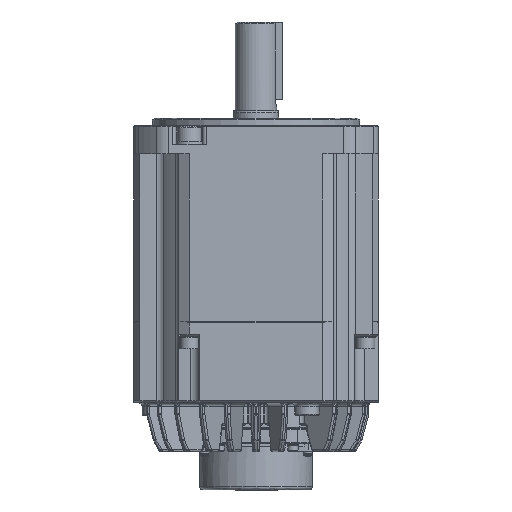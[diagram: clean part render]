
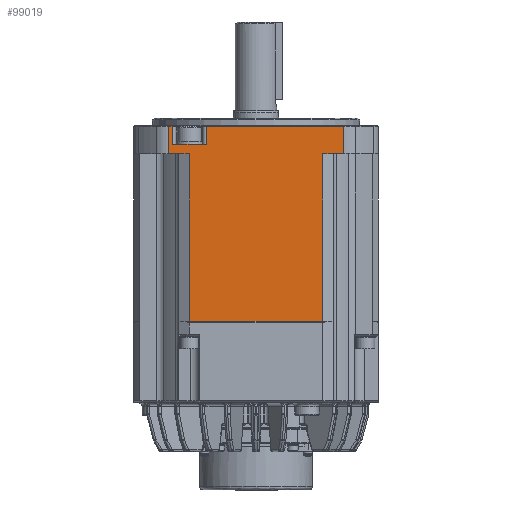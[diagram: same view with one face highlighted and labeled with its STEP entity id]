
A CAD part, front view. The second image highlights one B-rep face of the part: STEP entity #99019.
In plain terms, the highlighted planar face has unit normal (0, -1, 0).
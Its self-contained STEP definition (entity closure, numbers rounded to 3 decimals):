
#184 = VERTEX_POINT ( 'NONE', #106436 ) ;
#634 = VECTOR ( 'NONE', #153458, 1000. ) ;
#2374 = DIRECTION ( 'NONE',  ( 0., 0., -1. ) ) ;
#3789 = DIRECTION ( 'NONE',  ( 0., 0., -1. ) ) ;
#3954 = LINE ( 'NONE', #53146, #32720 ) ;
#5337 = DIRECTION ( 'NONE',  ( -1., 0., 0. ) ) ;
#5871 = ORIENTED_EDGE ( 'NONE', *, *, #35404, .F. ) ;
#9197 = DIRECTION ( 'NONE',  ( 0., 0., 1. ) ) ;
#9619 = CARTESIAN_POINT ( 'NONE',  ( 234.202, -20.122, -19. ) ) ;
#14220 = CARTESIAN_POINT ( 'NONE',  ( 223.238, -20.122, -4.5 ) ) ;
#14928 = ORIENTED_EDGE ( 'NONE', *, *, #103969, .F. ) ;
#15191 = EDGE_CURVE ( 'NONE', #123187, #42983, #99270, .T. ) ;
#19088 = DIRECTION ( 'NONE',  ( 0., 0., 1. ) ) ;
#20633 = VECTOR ( 'NONE', #156738, 1000. ) ;
#21558 = DIRECTION ( 'NONE',  ( 0., 0., 1. ) ) ;
#23021 = LINE ( 'NONE', #70571, #117119 ) ;
#24417 = LINE ( 'NONE', #9619, #20633 ) ;
#27836 = EDGE_CURVE ( 'NONE', #77397, #98460, #94197, .T. ) ;
#30145 = VECTOR ( 'NONE', #136356, 1000. ) ;
#31357 = DIRECTION ( 'NONE',  ( 1., 0., 0. ) ) ;
#32720 = VECTOR ( 'NONE', #3789, 1000. ) ;
#33023 = ORIENTED_EDGE ( 'NONE', *, *, #51757, .F. ) ;
#35404 = EDGE_CURVE ( 'NONE', #104214, #127388, #62631, .T. ) ;
#35723 = AXIS2_PLACEMENT_3D ( 'NONE', #48491, #134383, #60869 ) ;
#36159 = PLANE ( 'NONE',  #35723 ) ;
#36204 = ORIENTED_EDGE ( 'NONE', *, *, #49440, .F. ) ;
#38167 = DIRECTION ( 'NONE',  ( 1., 0., 0. ) ) ;
#39026 = VERTEX_POINT ( 'NONE', #150705 ) ;
#39249 = CARTESIAN_POINT ( 'NONE',  ( 154.026, -20.122, -14. ) ) ;
#41057 = ORIENTED_EDGE ( 'NONE', *, *, #27836, .F. ) ;
#41845 = CARTESIAN_POINT ( 'NONE',  ( 234.202, -20.122, -4.3 ) ) ;
#42129 = VERTEX_POINT ( 'NONE', #129752 ) ;
#42983 = VERTEX_POINT ( 'NONE', #85778 ) ;
#46029 = CARTESIAN_POINT ( 'NONE',  ( 234.202, -20.122, -108. ) ) ;
#48491 = CARTESIAN_POINT ( 'NONE',  ( 234.202, -20.122, -4.5 ) ) ;
#49440 = EDGE_CURVE ( 'NONE', #98460, #100871, #23021, .T. ) ;
#49507 = ORIENTED_EDGE ( 'NONE', *, *, #137371, .F. ) ;
#51757 = EDGE_CURVE ( 'NONE', #128962, #42129, #59444, .T. ) ;
#53146 = CARTESIAN_POINT ( 'NONE',  ( 143.237, -20.122, -4.5 ) ) ;
#55480 = EDGE_LOOP ( 'NONE', ( #5871, #49507, #14928, #137122, #100858, #88139, #70649, #33023, #94979, #113732, #36204, #41057, #99515, #109288, #120335 ) ) ;
#55911 = VECTOR ( 'NONE', #2374, 1000. ) ;
#56048 = LINE ( 'NONE', #156327, #117453 ) ;
#57406 = VECTOR ( 'NONE', #65043, 1000. ) ;
#58445 = EDGE_CURVE ( 'NONE', #184, #105363, #142298, .T. ) ;
#59406 = CARTESIAN_POINT ( 'NONE',  ( 234.202, -20.122, -14. ) ) ;
#59444 = LINE ( 'NONE', #68469, #157440 ) ;
#60083 = VECTOR ( 'NONE', #108216, 1000. ) ;
#60869 = DIRECTION ( 'NONE',  ( 0., 0., 1. ) ) ;
#61315 = VERTEX_POINT ( 'NONE', #39249 ) ;
#62631 = LINE ( 'NONE', #98170, #120188 ) ;
#62711 = VECTOR ( 'NONE', #5337, 1000. ) ;
#65043 = DIRECTION ( 'NONE',  ( 1., 0., 0. ) ) ;
#65483 = VECTOR ( 'NONE', #83072, 1000. ) ;
#67577 = CARTESIAN_POINT ( 'NONE',  ( 234.202, -20.122, -19. ) ) ;
#68469 = CARTESIAN_POINT ( 'NONE',  ( 234.202, -20.122, -4.3 ) ) ;
#69416 = CARTESIAN_POINT ( 'NONE',  ( 143.237, -20.122, -14. ) ) ;
#70571 = CARTESIAN_POINT ( 'NONE',  ( 152.237, -20.122, -4.5 ) ) ;
#70649 = ORIENTED_EDGE ( 'NONE', *, *, #90659, .F. ) ;
#76515 = FACE_OUTER_BOUND ( 'NONE', #55480, .T. ) ;
#77397 = VERTEX_POINT ( 'NONE', #155597 ) ;
#79366 = EDGE_CURVE ( 'NONE', #105363, #77397, #128037, .T. ) ;
#80378 = CARTESIAN_POINT ( 'NONE',  ( 161.237, -20.122, -14. ) ) ;
#82108 = EDGE_CURVE ( 'NONE', #61315, #113180, #110889, .T. ) ;
#82759 = CARTESIAN_POINT ( 'NONE',  ( 161.237, -20.122, -4.5 ) ) ;
#83072 = DIRECTION ( 'NONE',  ( -1., 0., 0. ) ) ;
#85778 = CARTESIAN_POINT ( 'NONE',  ( 150.449, -20.122, -14. ) ) ;
#85827 = DIRECTION ( 'NONE',  ( 0., 0., -1. ) ) ;
#86409 = CARTESIAN_POINT ( 'NONE',  ( 161.237, -20.122, -4.3 ) ) ;
#86971 = CARTESIAN_POINT ( 'NONE',  ( 234.202, -20.122, -14. ) ) ;
#88139 = ORIENTED_EDGE ( 'NONE', *, *, #15191, .F. ) ;
#90659 = EDGE_CURVE ( 'NONE', #42129, #123187, #3954, .T. ) ;
#94197 = LINE ( 'NONE', #46029, #65483 ) ;
#94749 = LINE ( 'NONE', #67577, #634 ) ;
#94979 = ORIENTED_EDGE ( 'NONE', *, *, #121835, .F. ) ;
#98170 = CARTESIAN_POINT ( 'NONE',  ( 234.202, -20.122, -4.5 ) ) ;
#98460 = VERTEX_POINT ( 'NONE', #141058 ) ;
#99019 = ADVANCED_FACE ( 'NONE', ( #76515 ), #36159, .F. ) ;
#99270 = LINE ( 'NONE', #86971, #30145 ) ;
#99515 = ORIENTED_EDGE ( 'NONE', *, *, #79366, .F. ) ;
#100858 = ORIENTED_EDGE ( 'NONE', *, *, #116402, .F. ) ;
#100871 = VERTEX_POINT ( 'NONE', #147343 ) ;
#101709 = VERTEX_POINT ( 'NONE', #86409 ) ;
#101738 = CARTESIAN_POINT ( 'NONE',  ( 223.238, -20.122, -108. ) ) ;
#103969 = EDGE_CURVE ( 'NONE', #113180, #101709, #141197, .T. ) ;
#104214 = VERTEX_POINT ( 'NONE', #41845 ) ;
#104698 = VECTOR ( 'NONE', #21558, 1000. ) ;
#105363 = VERTEX_POINT ( 'NONE', #101738 ) ;
#105539 = CARTESIAN_POINT ( 'NONE',  ( 141.272, -20.122, -4.3 ) ) ;
#106436 = CARTESIAN_POINT ( 'NONE',  ( 223.238, -20.122, -19. ) ) ;
#107088 = VECTOR ( 'NONE', #38167, 1000. ) ;
#108216 = DIRECTION ( 'NONE',  ( 1., 0., 0. ) ) ;
#109288 = ORIENTED_EDGE ( 'NONE', *, *, #58445, .F. ) ;
#110021 = EDGE_CURVE ( 'NONE', #100871, #39026, #24417, .T. ) ;
#110889 = LINE ( 'NONE', #111688, #107088 ) ;
#111688 = CARTESIAN_POINT ( 'NONE',  ( 234.202, -20.122, -14. ) ) ;
#113180 = VERTEX_POINT ( 'NONE', #80378 ) ;
#113732 = ORIENTED_EDGE ( 'NONE', *, *, #110021, .F. ) ;
#116402 = EDGE_CURVE ( 'NONE', #42983, #61315, #121475, .T. ) ;
#117119 = VECTOR ( 'NONE', #19088, 1000. ) ;
#117453 = VECTOR ( 'NONE', #9197, 1000. ) ;
#120188 = VECTOR ( 'NONE', #85827, 1000. ) ;
#120335 = ORIENTED_EDGE ( 'NONE', *, *, #153047, .F. ) ;
#121475 = LINE ( 'NONE', #59406, #60083 ) ;
#121835 = EDGE_CURVE ( 'NONE', #39026, #128962, #56048, .T. ) ;
#123187 = VERTEX_POINT ( 'NONE', #69416 ) ;
#126564 = LINE ( 'NONE', #150900, #57406 ) ;
#127388 = VERTEX_POINT ( 'NONE', #142546 ) ;
#128037 = LINE ( 'NONE', #128766, #62711 ) ;
#128766 = CARTESIAN_POINT ( 'NONE',  ( 234.202, -20.122, -108. ) ) ;
#128962 = VERTEX_POINT ( 'NONE', #105539 ) ;
#129752 = CARTESIAN_POINT ( 'NONE',  ( 143.237, -20.122, -4.3 ) ) ;
#134383 = DIRECTION ( 'NONE',  ( 0., 1., 0. ) ) ;
#136356 = DIRECTION ( 'NONE',  ( 1., 0., 0. ) ) ;
#137122 = ORIENTED_EDGE ( 'NONE', *, *, #82108, .F. ) ;
#137371 = EDGE_CURVE ( 'NONE', #101709, #104214, #126564, .T. ) ;
#141058 = CARTESIAN_POINT ( 'NONE',  ( 152.237, -20.122, -108. ) ) ;
#141197 = LINE ( 'NONE', #82759, #104698 ) ;
#142298 = LINE ( 'NONE', #14220, #55911 ) ;
#142546 = CARTESIAN_POINT ( 'NONE',  ( 234.202, -20.122, -19. ) ) ;
#147343 = CARTESIAN_POINT ( 'NONE',  ( 152.237, -20.122, -19. ) ) ;
#150705 = CARTESIAN_POINT ( 'NONE',  ( 141.272, -20.122, -19. ) ) ;
#150900 = CARTESIAN_POINT ( 'NONE',  ( 234.202, -20.122, -4.3 ) ) ;
#153047 = EDGE_CURVE ( 'NONE', #127388, #184, #94749, .T. ) ;
#153458 = DIRECTION ( 'NONE',  ( -1., 0., 0. ) ) ;
#155597 = CARTESIAN_POINT ( 'NONE',  ( 187.737, -20.122, -108. ) ) ;
#156327 = CARTESIAN_POINT ( 'NONE',  ( 141.272, -20.122, -4.5 ) ) ;
#156738 = DIRECTION ( 'NONE',  ( -1., 0., 0. ) ) ;
#157440 = VECTOR ( 'NONE', #31357, 1000. ) ;
